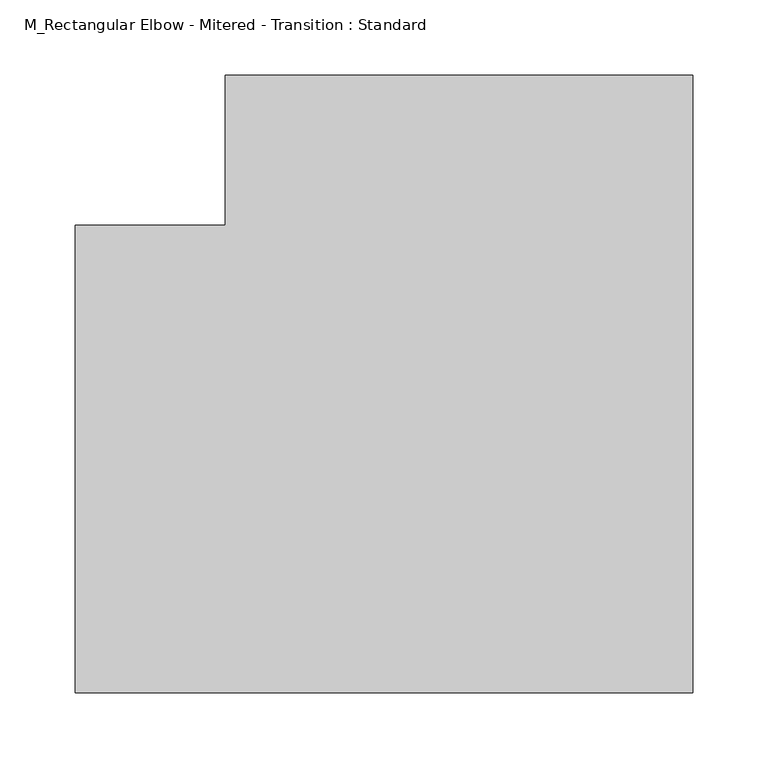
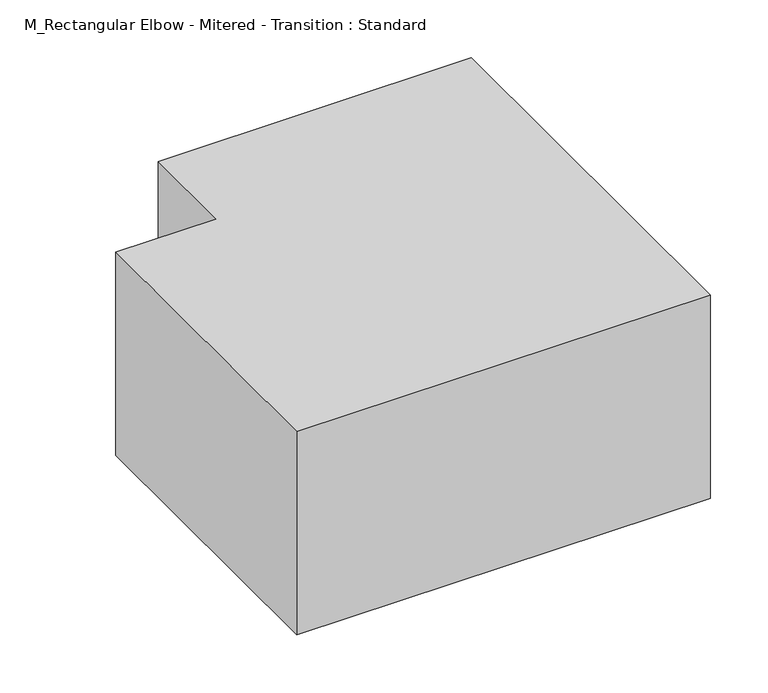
"""IFC4 building model written with IfcOpenShell, lengths in millimetres: duct fitting geometry, M_Rectangular Elbow - Mitered - Transition : Standard."""

from ifc_helpers import new_model, si_unit, frame, origin, place, context, project, spatial, polyline, outline, extrude, source, transform, mapped, element, save


def m_rectangular_elbow_mitered_transition_standard_b998f363(model_context):
    return source(origin(), model_context, "Body", "SweptSolid", [
        extrude(outline(polyline([(-155.9375, 155.9375), (-155.9375, 255.9375), (155.9375, 255.9375), (155.9375, -155.9375), (-255.9375, -155.9375), (-255.9375, 155.9375), (-155.9375, 155.9375)])), frame((0.0, 0.0, -107.15), z_axis=(0.0, 0.0, 1.0), x_axis=(1.0, 0.0, 0.0)), (0.0, 0.0, 1.0), 214.3),
    ])


if __name__ == "__main__":
    model = new_model("IFC4")
    model_context = context("Model", 3, world=origin())
    ifc_project = project(units=[si_unit("LENGTHUNIT", "METRE", prefix="MILLI")], contexts=[model_context])
    site = spatial("IfcSite", under=ifc_project)
    building = spatial("IfcBuilding", under=site)
    placement = place(None, origin())
    m_rectangular_elbow_mitered_transition_standard_shape = m_rectangular_elbow_mitered_transition_standard_b998f363(model_context)
    element("IfcDuctFitting", 1, ObjectType="M_Rectangular Elbow - Mitered - Transition : Standard", at=placement, inside=building, context=model_context, shape_type="MappedRepresentation", body=[
        mapped(m_rectangular_elbow_mitered_transition_standard_shape, transform((0.0, 0.0, 0.0), x_axis=(1.0, 0.0, 0.0), y_axis=(0.0, 1.0, 0.0), z_axis=(0.0, 0.0, 1.0))),
    ])
    save(model, "model.ifc")
